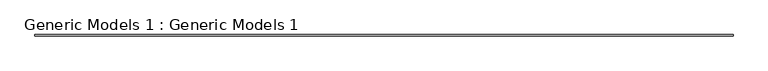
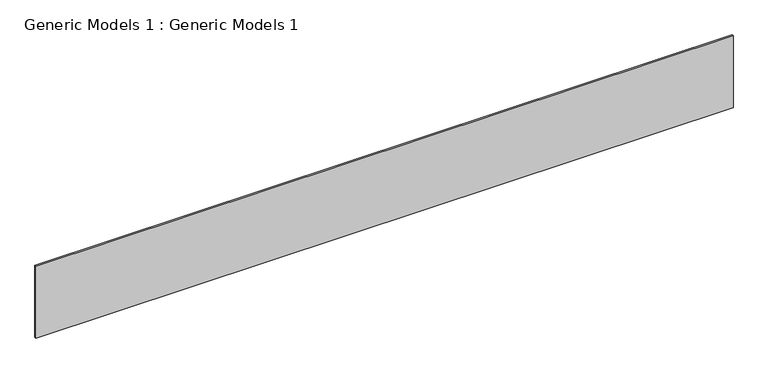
"""IFC4 building model written with IfcOpenShell, lengths in millimetres: proxy geometry, Generic Models 1 : Generic Models 1."""

from ifc_helpers import new_model, si_unit, frame, origin, place, context, project, spatial, polyline, outline, extrude, source, transform, mapped, element, save


def generic_models_1_generic_models_1_b1e18ffd(model_context):
    return source(origin(), model_context, "Body", "SweptSolid", [
        extrude(outline(polyline([(-9102.850493, -6264.1489595), (-12049.235253, -6264.1489595), (-12049.235253, -6257.7989595), (-9102.850493, -6257.7989595), (-9102.850493, -6264.1489595)])), frame((0.0, 0.0, 33528.0), z_axis=(0.0, 0.0, 1.0), x_axis=(1.0, 0.0, 0.0)), (0.0, 0.0, 1.0), 321.0775689),
    ])


if __name__ == "__main__":
    model = new_model("IFC4")
    model_context = context("Model", 3, world=origin())
    ifc_project = project(units=[si_unit("LENGTHUNIT", "METRE", prefix="MILLI")], contexts=[model_context])
    site = spatial("IfcSite", under=ifc_project)
    building = spatial("IfcBuilding", under=site)
    placement = place(None, origin())
    generic_models_1_generic_models_1_shape = generic_models_1_generic_models_1_b1e18ffd(model_context)
    element("IfcBuildingElementProxy", 1, Name="Generic Models 1 : Generic Models 1", ObjectType="Generic Models 1 : Generic Models 1", at=placement, inside=building, context=model_context, shape_type="MappedRepresentation", body=[
        mapped(generic_models_1_generic_models_1_shape, transform((0.0, 0.0, 0.0), x_axis=(1.0, 0.0, 0.0), y_axis=(0.0, 1.0, 0.0), z_axis=(0.0, 0.0, 1.0))),
    ])
    save(model, "model.ifc")
